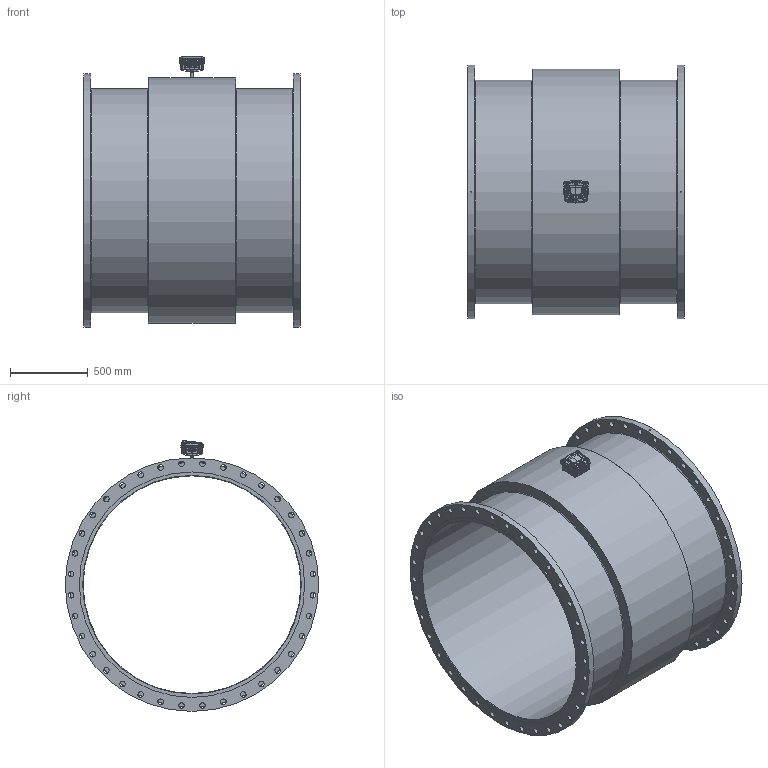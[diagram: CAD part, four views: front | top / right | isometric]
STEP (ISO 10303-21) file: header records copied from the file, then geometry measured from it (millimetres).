
FILE_DESCRIPTION((''),'2;1');
FILE_NAME('C:\Users\Claus\Dropbox\Projects 2011 - 2012\MJK Automation AS\STEP 3D DIN EN-1095-1\DN 1400 - DIN EN-1092-1.stp','2015-01-17T21:41:11',('Claus'),(''),'Autodesk Inventor 2013','Autodesk Inventor 2013','');
FILE_SCHEMA(('AUTOMOTIVE_DESIGN { 1 0 10303 214 1 1 1 1 }'));
Length unit declared in the file: millimetre
Products named in the file (7): DN 1400 - DIN EN-1092-1; FC_MagFlux_assembly_r1; CH Bund ml; FC Top rev 06.04; CH 03.02; Electrode group DN15 - DN32
Assembly tree (8 placements, depth 3):
  DN 1400 - DIN EN-1092-1
    DN 1400 - DIN EN-1092-1
    FC_MagFlux_assembly_r1
      CH Bund ml
      FC Top rev 06.04
      CH 03.02
    Electrode group DN15 - DN32  x3
Bounding box: 1400 x 1630 x 1741.34 mm (x, y, z)
Volume: 348748468.2 mm3; surface area: 15854382.8 mm2
Topology: 10 solids, 10 shells, 2991 faces, 8162 edges, 5315 vertices
Faces by surface type: bspline 1752, plane 810, cylinder 266, cone 123, torus 25, revolution 9, sphere 6
Full cylindrical faces by diameter (mm): 2.5 x3, 3 x6, 4 x1, 6 x2, 6.5 x4, 7.042 x4, 8 x3, 8.048 x4, 12.072 x4, 15 x1, 18 x1, 18.108 x1, 36 x72, 64 x1, 1400 x1, 1440 x2, 1450 x2, 1580 x1, 1630 x2
Entity records: 235970 total; most frequent: CARTESIAN_POINT 171850, ORIENTED_EDGE 15720, DIRECTION 8093, EDGE_CURVE 7860, VERTEX_POINT 5253, EDGE_LOOP 3497, VECTOR 3112, LINE 3112
